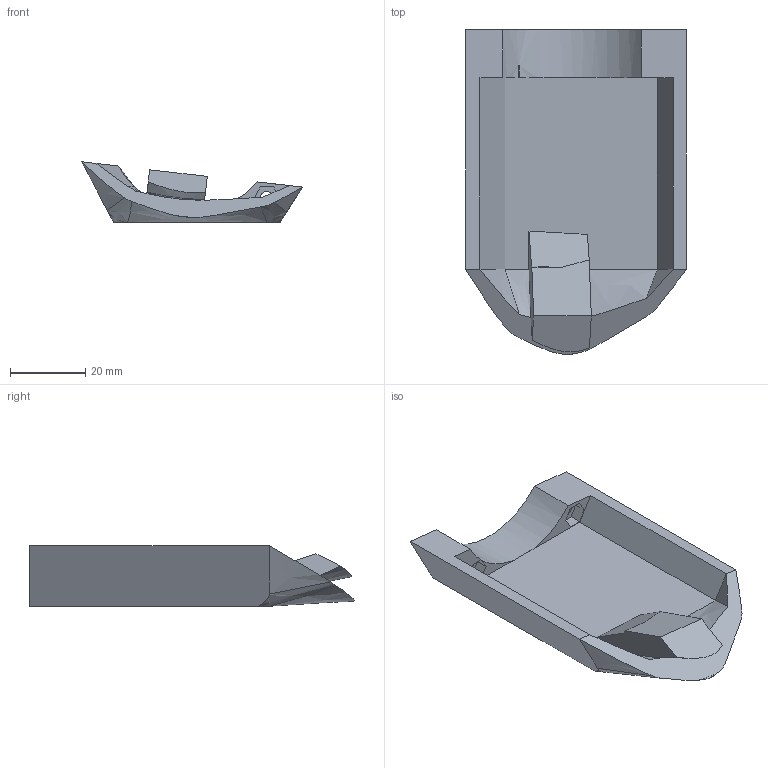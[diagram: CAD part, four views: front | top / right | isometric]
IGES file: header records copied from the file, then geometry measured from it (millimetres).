
Global section: file name: Electronics Cover NoHoles; native system: Autodesk Inventor 2016; preprocessor: unknown; author: Z; date: 20151030.084626; units: inch
Bounding box: 58.54 x 86.03 x 16.03 mm (x, y, z)
Volume: 20708.7 mm3; surface area: 12488.9 mm2
Topology: 1 solids, 1 shells, 51 faces, 138 edges, 90 vertices
Faces by surface type: bspline 51
